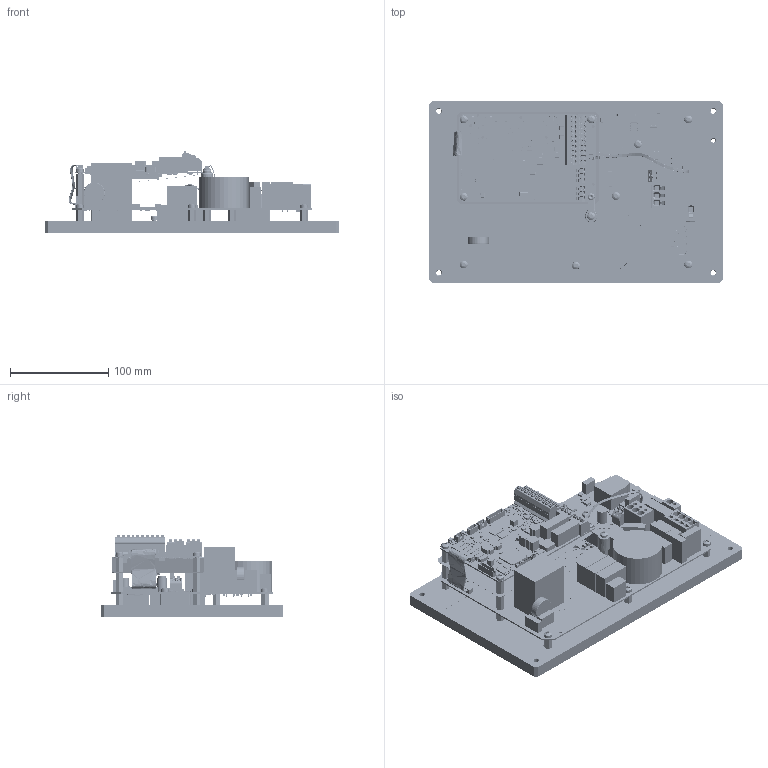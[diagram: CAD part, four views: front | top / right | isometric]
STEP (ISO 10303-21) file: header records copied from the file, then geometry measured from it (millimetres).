
FILE_DESCRIPTION(('CATIA V5 STEP 214'),'2;1');
FILE_NAME('C:\Temp\ddxv7\257474\MKT INV P BG B-1-0000A.stp','2015-12-17T12:59:16+00:00',('Leopold Kostal'),('Kostal GmbH'),'CATIA Version 5 Release 19 SP 9 (IN-10)','CATIA V5 STEP AP214','none');
FILE_SCHEMA(('AUTOMOTIVE_DESIGN { 1 0 10303 214 1 1 1 1 }'));
Products named in the file (1): MKT INV P BG B-1-0000A
Bounding box: 300 x 185 x 83.49 mm (x, y, z)
Volume: 1168056.4 mm3; surface area: 466882.7 mm2
Topology: 2505 solids, 2505 shells, 39871 faces, 101069 edges, 66407 vertices
Faces by surface type: plane 28709, cylinder 9239, extrusion 1262, cone 299, torus 196, bspline 66, sphere 56, revolution 44
Entity records: 1151937 total; most frequent: CARTESIAN_POINT 232962, ORIENTED_EDGE 201990, DIRECTION 147702, EDGE_CURVE 100995, VECTOR 77506, LINE 76244, VERTEX_POINT 66407, EDGE_LOOP 45260
